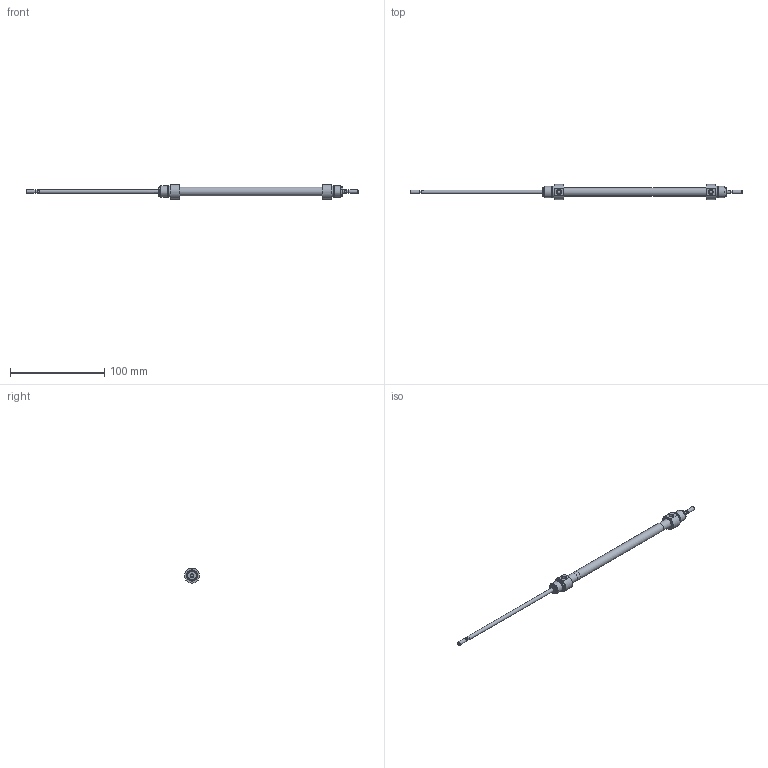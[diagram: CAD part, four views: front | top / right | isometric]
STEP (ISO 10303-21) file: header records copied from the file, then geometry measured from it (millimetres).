
FILE_DESCRIPTION( ( 'STEP AP203' ), '1' );
FILE_NAME( '//expscmdclustefs.cadenas.external/client_exchange/iodir/jobs/output/wkb68261616_no0/STEP/M101-08-0125--__0__2_03.stp', ' ', ( ' ' ), ( ' ' ), 'PSStep 15.0.47', 'PARTsolutions', ' ' );
FILE_SCHEMA( ( 'CONFIG_CONTROL_DESIGN' ) );
Length unit declared in the file: millimetre
Products named in the file (3): M101-08-0125-- [0]; HI_M101-08-0125---[0]-z; HI_M101-08-0125---[0]-k
Assembly tree (2 placements, depth 2):
  M101-08-0125-- [0]
    HI_M101-08-0125---[0]-z
    HI_M101-08-0125---[0]-k
Bounding box: 352 x 15.98 x 14.97 mm (x, y, z)
Volume: 13801.2 mm3; surface area: 15737.9 mm2
Topology: 2 solids, 2 shells, 71 faces, 145 edges, 88 vertices
Faces by surface type: plane 32, cylinder 23, cone 14, torus 2
Full cylindrical faces by diameter (mm): 3.141 x2, 4 x6, 4.134 x2, 8 x2, 9.3 x1, 10.466 x4, 12 x4
Entity records: 1838 total; most frequent: CARTESIAN_POINT 358, DIRECTION 312, ORIENTED_EDGE 212, AXIS2_PLACEMENT_3D 140, EDGE_LOOP 120, EDGE_CURVE 106, FACE_OUTER_BOUND 94, VERTEX_POINT 82
